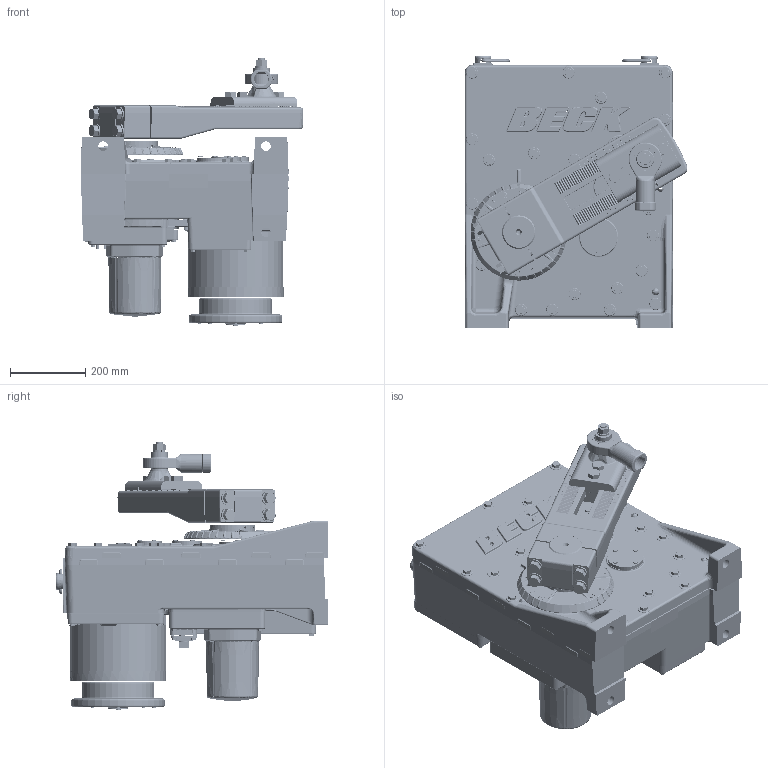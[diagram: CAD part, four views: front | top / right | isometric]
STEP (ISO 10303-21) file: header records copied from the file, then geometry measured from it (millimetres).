
FILE_DESCRIPTION (( 'STEP AP203' ), '1' );
FILE_NAME ('18-2230-01.STEP', '2014-04-11T13:07:05', ( '' ), ( '' ), 'SwSTEP 2.0', 'SolidWorks 2013', '' );
FILE_SCHEMA (( 'CONFIG_CONTROL_DESIGN' ));
Products named in the file (1): 18-2230-01
Bounding box: 591.28 x 722.25 x 710.48 mm (x, y, z)
Surface area: 2789564.4 mm2 (no closed solid volume)
Topology: 0 solids, 305 shells, 3482 faces, 13598 edges, 9980 vertices
Faces by surface type: plane 1261, cylinder 878, bspline 592, cone 386, torus 247, sphere 118
Full cylindrical faces by diameter (mm): 50.8 x1
Entity records: 190908 total; most frequent: CARTESIAN_POINT 87444, DIRECTION 20040, ORIENTED_EDGE 19605, EDGE_CURVE 13539, VERTEX_POINT 9981, AXIS2_PLACEMENT_3D 7329, VECTOR 5382, LINE 5382
